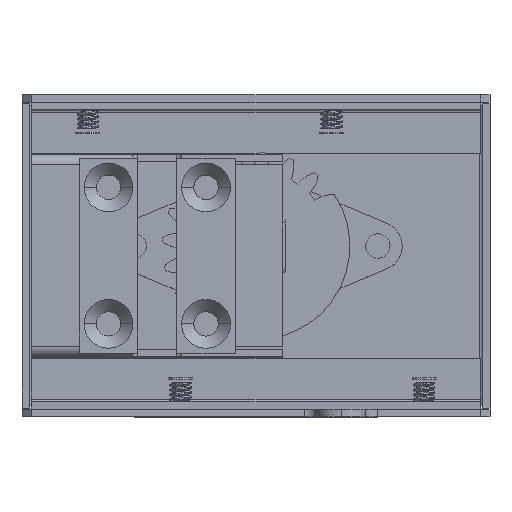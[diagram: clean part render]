
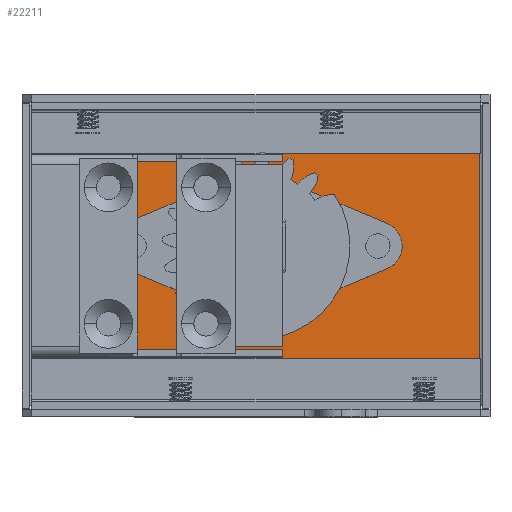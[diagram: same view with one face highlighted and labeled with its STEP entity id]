
A CAD part, top view. The second image highlights one B-rep face of the part: STEP entity #22211.
In plain terms, the highlighted planar face has unit normal (0, 0, 1) as drawn and (0, 0, -1) by its records, which use the part's own axes.
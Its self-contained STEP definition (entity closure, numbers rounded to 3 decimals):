
#20601=CARTESIAN_POINT(' ',(-45.9,-30.75,-1.5));
#20602=VERTEX_POINT(' ',#20601);
#20646=CARTESIAN_POINT(' ',(-45.9,30.75,-1.5));
#20647=VERTEX_POINT(' ',#20646);
#20661=CARTESIAN_POINT(' ',(-45.9,-30.75,-1.5));
#20666=DIRECTION(' ',(0.,1.,0.));
#20671=VECTOR(' ',#20666,1.);
#20676=LINE('',#20661,#20671);
#20681=EDGE_CURVE(' ',#20602,#20647,#20676,.T.);
#21631=CARTESIAN_POINT(' ',(-45.75,30.75,-1.5));
#21632=VERTEX_POINT(' ',#21631);
#21646=CARTESIAN_POINT(' ',(-45.9,30.75,-1.5));
#21651=DIRECTION(' ',(1.,0.,0.));
#21656=VECTOR(' ',#21651,1.);
#21661=LINE('',#21646,#21656);
#21666=EDGE_CURVE(' ',#20647,#21632,#21661,.T.);
#21721=CARTESIAN_POINT(' ',(-45.75,-30.75,-1.5));
#21726=DIRECTION(' ',(-1.,0.,0.));
#21731=VECTOR(' ',#21726,1.);
#21736=LINE('',#21721,#21731);
#21741=CARTESIAN_POINT(' ',(-45.75,-30.75,-1.5));
#21742=VERTEX_POINT(' ',#21741);
#21746=EDGE_CURVE(' ',#21742,#20602,#21736,.T.);
#21851=DIRECTION(' ',(0.,0.,-1.));
#21856=CARTESIAN_POINT(' ',(45.9,-30.9,-1.5));
#21861=DIRECTION(' ',(-1.,0.,0.));
#21866=AXIS2_PLACEMENT_3D(' ',#21856,#21851,#21861);
#21871=PLANE('NONE',#21866);
#21876=ORIENTED_EDGE(' ',*,*,#21746,.T.);
#21881=ORIENTED_EDGE(' ',*,*,#20681,.T.);
#21886=ORIENTED_EDGE(' ',*,*,#21666,.T.);
#21891=CARTESIAN_POINT(' ',(-45.75,30.75,-1.5));
#21896=DIRECTION(' ',(0.,1.,0.));
#21901=VECTOR(' ',#21896,1.);
#21906=LINE('',#21891,#21901);
#21911=CARTESIAN_POINT(' ',(-45.75,30.9,-1.5));
#21912=VERTEX_POINT(' ',#21911);
#21916=EDGE_CURVE(' ',#21632,#21912,#21906,.T.);
#21921=ORIENTED_EDGE(' ',*,*,#21916,.T.);
#21926=CARTESIAN_POINT(' ',(-45.75,30.9,-1.5));
#21931=DIRECTION(' ',(1.,0.,0.));
#21936=VECTOR(' ',#21931,1.);
#21941=LINE('',#21926,#21936);
#21946=CARTESIAN_POINT(' ',(45.75,30.9,-1.5));
#21947=VERTEX_POINT(' ',#21946);
#21951=EDGE_CURVE(' ',#21912,#21947,#21941,.T.);
#21956=ORIENTED_EDGE(' ',*,*,#21951,.T.);
#21961=CARTESIAN_POINT(' ',(45.75,30.9,-1.5));
#21966=DIRECTION(' ',(0.,-1.,0.));
#21971=VECTOR(' ',#21966,1.);
#21976=LINE('',#21961,#21971);
#21981=CARTESIAN_POINT(' ',(45.75,30.75,-1.5));
#21982=VERTEX_POINT(' ',#21981);
#21986=EDGE_CURVE(' ',#21947,#21982,#21976,.T.);
#21991=ORIENTED_EDGE(' ',*,*,#21986,.T.);
#21996=CARTESIAN_POINT(' ',(45.75,30.75,-1.5));
#22001=DIRECTION(' ',(1.,0.,0.));
#22006=VECTOR(' ',#22001,1.);
#22011=LINE('',#21996,#22006);
#22016=CARTESIAN_POINT(' ',(45.9,30.75,-1.5));
#22017=VERTEX_POINT(' ',#22016);
#22021=EDGE_CURVE(' ',#21982,#22017,#22011,.T.);
#22026=ORIENTED_EDGE(' ',*,*,#22021,.T.);
#22031=CARTESIAN_POINT(' ',(45.9,30.75,-1.5));
#22036=DIRECTION(' ',(0.,-1.,0.));
#22041=VECTOR(' ',#22036,1.);
#22046=LINE('',#22031,#22041);
#22051=CARTESIAN_POINT(' ',(45.9,-30.75,-1.5));
#22052=VERTEX_POINT(' ',#22051);
#22056=EDGE_CURVE(' ',#22017,#22052,#22046,.T.);
#22061=ORIENTED_EDGE(' ',*,*,#22056,.T.);
#22066=CARTESIAN_POINT(' ',(45.9,-30.75,-1.5));
#22071=DIRECTION(' ',(-1.,0.,0.));
#22076=VECTOR(' ',#22071,1.);
#22081=LINE('',#22066,#22076);
#22086=CARTESIAN_POINT(' ',(45.75,-30.75,-1.5));
#22087=VERTEX_POINT(' ',#22086);
#22091=EDGE_CURVE(' ',#22052,#22087,#22081,.T.);
#22096=ORIENTED_EDGE(' ',*,*,#22091,.T.);
#22101=CARTESIAN_POINT(' ',(45.75,-30.75,-1.5));
#22106=DIRECTION(' ',(0.,-1.,0.));
#22111=VECTOR(' ',#22106,1.);
#22116=LINE('',#22101,#22111);
#22121=CARTESIAN_POINT(' ',(45.75,-30.9,-1.5));
#22122=VERTEX_POINT(' ',#22121);
#22126=EDGE_CURVE(' ',#22087,#22122,#22116,.T.);
#22131=ORIENTED_EDGE(' ',*,*,#22126,.T.);
#22136=CARTESIAN_POINT(' ',(45.75,-30.9,-1.5));
#22141=DIRECTION(' ',(-1.,0.,0.));
#22146=VECTOR(' ',#22141,1.);
#22151=LINE('',#22136,#22146);
#22156=CARTESIAN_POINT(' ',(-45.75,-30.9,-1.5));
#22157=VERTEX_POINT(' ',#22156);
#22161=EDGE_CURVE(' ',#22122,#22157,#22151,.T.);
#22166=ORIENTED_EDGE(' ',*,*,#22161,.T.);
#22171=CARTESIAN_POINT(' ',(-45.75,-30.9,-1.5));
#22176=DIRECTION(' ',(0.,1.,0.));
#22181=VECTOR(' ',#22176,1.);
#22186=LINE('',#22171,#22181);
#22191=EDGE_CURVE(' ',#22157,#21742,#22186,.T.);
#22196=ORIENTED_EDGE(' ',*,*,#22191,.T.);
#22201=EDGE_LOOP(' ',(#21876,#21881,#21886,#21921,#21956,#21991,#22026,#22061,#22096,#22131,#22166,#22196));
#22206=FACE_OUTER_BOUND(' ',#22201,.T.);
#22211=ADVANCED_FACE('NONE',(#22206),#21871,.T.);
